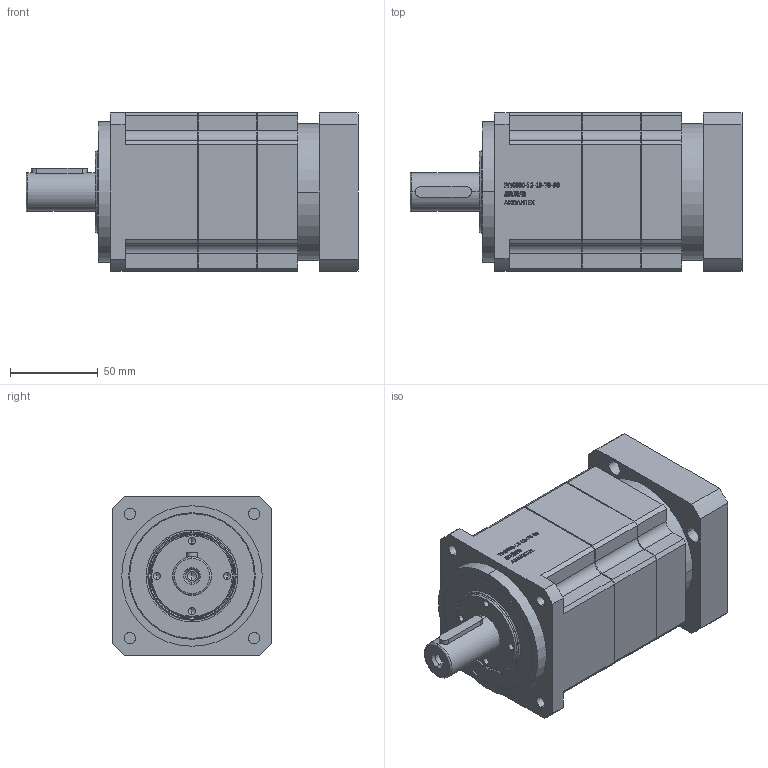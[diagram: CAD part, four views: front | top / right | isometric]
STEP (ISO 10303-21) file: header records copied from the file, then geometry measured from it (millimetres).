
FILE_DESCRIPTION (( 'STEP AP203' ), '1' );
FILE_NAME ('PAG090-L2-19-70-90.STEP', '2022-07-18T07:57:46', ( 'Windows User' ), ( 'P R C' ), 'SwSTEP 2.0', 'SolidWorks 2016', '' );
FILE_SCHEMA (( 'CONFIG_CONTROL_DESIGN' ));
Length unit declared in the file: millimetre
Products named in the file (7): PAG090帣釱19-70-90; 油封範本 TC 72x50x8_TC-34.9-55-7; 内六角圆柱头螺钉M6×16; A倰す瑩 6x6x32; PAG090-L2-19-70-90; PAG090二级齿圈; PAG090奻裔啣
Assembly tree (6 placements, depth 2):
  PAG090-L2-19-70-90
    PAG090奻裔啣
    PAG090二级齿圈
    PAG090帣釱19-70-90
    油封範本 TC 72x50x8_TC-34.9-55-7
    内六角圆柱头螺钉M6×16
    A倰す瑩 6x6x32
Bounding box: 189 x 90 x 90 mm (x, y, z)
Volume: 956338.4 mm3; surface area: 144702.7 mm2
Topology: 6 solids, 6 shells, 933 faces, 2398 edges, 1555 vertices
Faces by surface type: plane 508, cylinder 170, bspline 163, cone 72, torus 20
Entity records: 36769 total; most frequent: CARTESIAN_POINT 14156, ORIENTED_EDGE 4756, DIRECTION 4017, EDGE_CURVE 2378, VECTOR 1559, LINE 1559, VERTEX_POINT 1555, AXIS2_PLACEMENT_3D 1229
